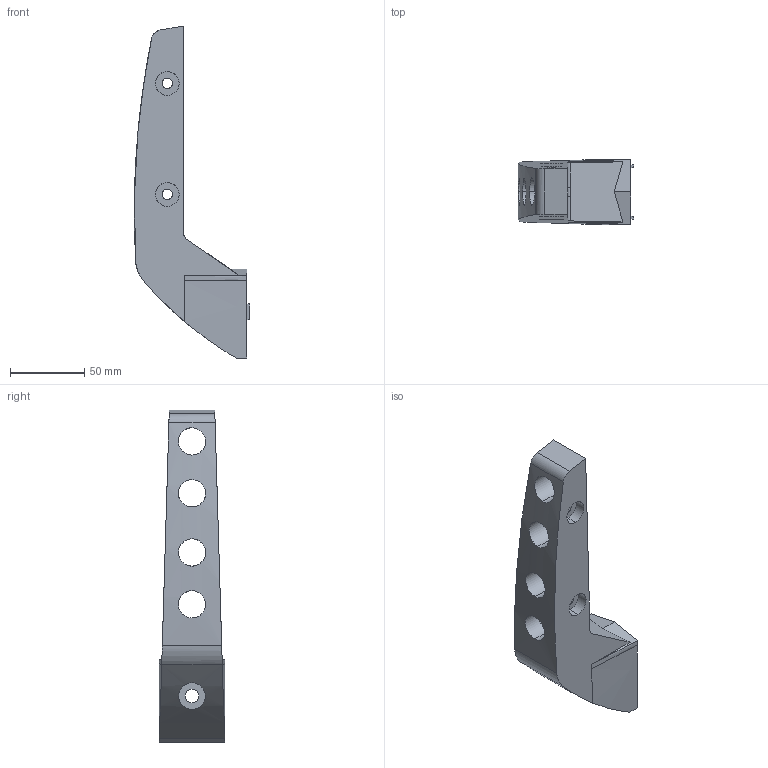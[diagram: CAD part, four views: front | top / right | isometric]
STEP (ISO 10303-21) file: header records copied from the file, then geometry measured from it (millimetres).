
FILE_DESCRIPTION (( 'STEP AP214' ), '1' );
FILE_NAME ('FGRF A110.STEP', '2020-09-29T06:36:08', ( '' ), ( '' ), 'SwSTEP 2.0', 'SolidWorks 2018', '' );
FILE_SCHEMA (( 'AUTOMOTIVE_DESIGN' ));
Length unit declared in the file: millimetre
Products named in the file (1): FGRF A110
Bounding box: 77.97 x 44 x 224.23 mm (x, y, z)
Volume: 255010.1 mm3; surface area: 45348.9 mm2
Topology: 1 solids, 1 shells, 60 faces, 154 edges, 102 vertices
Faces by surface type: cylinder 30, plane 25, bspline 5
Entity records: 2414 total; most frequent: CARTESIAN_POINT 961, ORIENTED_EDGE 308, DIRECTION 263, EDGE_CURVE 154, VERTEX_POINT 102, AXIS2_PLACEMENT_3D 90, LINE 83, VECTOR 83
